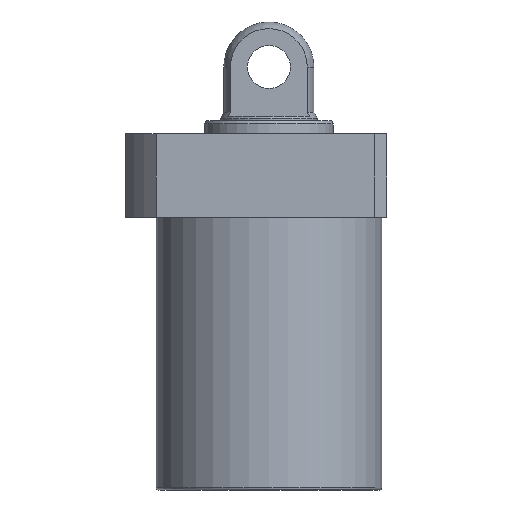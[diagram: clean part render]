
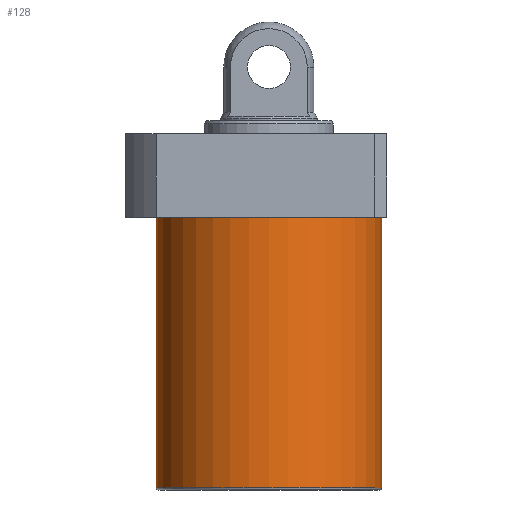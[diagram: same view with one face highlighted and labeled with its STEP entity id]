
A CAD part, front view. The second image highlights one B-rep face of the part: STEP entity #128.
In plain terms, the highlighted cylindrical face has radius 52.5 mm (diameter 105 mm), a partial arc.
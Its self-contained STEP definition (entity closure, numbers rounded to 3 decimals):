
#32 = DIRECTION ( 'NONE',  ( 0., 0., 1. ) ) ;
#64 = EDGE_CURVE ( 'NONE', #423, #1790, #198, .T. ) ;
#128 = ADVANCED_FACE ( 'NONE', ( #1548 ), #156, .T. ) ;
#156 = CYLINDRICAL_SURFACE ( 'NONE', #1693, 52.5 ) ;
#198 = LINE ( 'NONE', #669, #1646 ) ;
#280 = DIRECTION ( 'NONE',  ( 0., 0., 1. ) ) ;
#423 = VERTEX_POINT ( 'NONE', #1362 ) ;
#441 = EDGE_CURVE ( 'NONE', #1789, #1790, #582, .T. ) ;
#485 = CARTESIAN_POINT ( 'NONE',  ( -52.5, 0., -19.5 ) ) ;
#534 = LINE ( 'NONE', #1550, #1526 ) ;
#582 = CIRCLE ( 'NONE', #1059, 52.5 ) ;
#669 = CARTESIAN_POINT ( 'NONE',  ( -52.5, 0., -146.5 ) ) ;
#710 = CARTESIAN_POINT ( 'NONE',  ( 0., 0., -145.5 ) ) ;
#917 = EDGE_LOOP ( 'NONE', ( #1820, #1594, #1234, #1290 ) ) ;
#918 = DIRECTION ( 'NONE',  ( 0., 0., -1. ) ) ;
#969 = CIRCLE ( 'NONE', #1160, 52.5 ) ;
#975 = CARTESIAN_POINT ( 'NONE',  ( 0., 0., -146.5 ) ) ;
#1059 = AXIS2_PLACEMENT_3D ( 'NONE', #1631, #918, #1785 ) ;
#1084 = VERTEX_POINT ( 'NONE', #1245 ) ;
#1131 = EDGE_CURVE ( 'NONE', #1084, #1789, #534, .T. ) ;
#1160 = AXIS2_PLACEMENT_3D ( 'NONE', #710, #32, #1286 ) ;
#1234 = ORIENTED_EDGE ( 'NONE', *, *, #1131, .T. ) ;
#1245 = CARTESIAN_POINT ( 'NONE',  ( 52.5, 0., -145.5 ) ) ;
#1286 = DIRECTION ( 'NONE',  ( -1., 0., 0. ) ) ;
#1290 = ORIENTED_EDGE ( 'NONE', *, *, #441, .T. ) ;
#1362 = CARTESIAN_POINT ( 'NONE',  ( -52.5, 0., -145.5 ) ) ;
#1415 = DIRECTION ( 'NONE',  ( 1., 0., 0. ) ) ;
#1419 = DIRECTION ( 'NONE',  ( 0., 0., 1. ) ) ;
#1482 = CARTESIAN_POINT ( 'NONE',  ( 52.5, 0., -19.5 ) ) ;
#1526 = VECTOR ( 'NONE', #1419, 1000. ) ;
#1548 = FACE_OUTER_BOUND ( 'NONE', #917, .T. ) ;
#1550 = CARTESIAN_POINT ( 'NONE',  ( 52.5, 0., -146.5 ) ) ;
#1551 = EDGE_CURVE ( 'NONE', #423, #1084, #969, .T. ) ;
#1594 = ORIENTED_EDGE ( 'NONE', *, *, #1551, .T. ) ;
#1631 = CARTESIAN_POINT ( 'NONE',  ( 0., 0., -19.5 ) ) ;
#1646 = VECTOR ( 'NONE', #280, 1000. ) ;
#1670 = DIRECTION ( 'NONE',  ( 0., 0., 1. ) ) ;
#1693 = AXIS2_PLACEMENT_3D ( 'NONE', #975, #1670, #1415 ) ;
#1785 = DIRECTION ( 'NONE',  ( 1., 0., 0. ) ) ;
#1789 = VERTEX_POINT ( 'NONE', #1482 ) ;
#1790 = VERTEX_POINT ( 'NONE', #485 ) ;
#1820 = ORIENTED_EDGE ( 'NONE', *, *, #64, .F. ) ;
